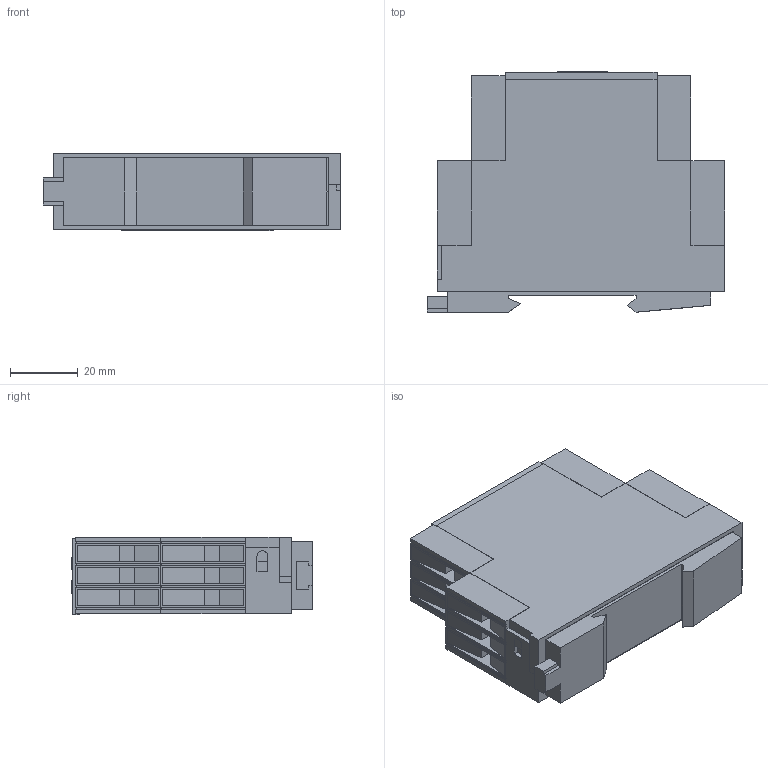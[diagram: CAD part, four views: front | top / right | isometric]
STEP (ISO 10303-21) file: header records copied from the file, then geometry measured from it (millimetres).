
FILE_DESCRIPTION (( 'STEP AP203' ), '1' );
FILE_NAME ('KR_GY200_3.STEP', '2017-02-13T16:47:06', ( '' ), ( '' ), 'SwSTEP 2.0', 'SolidWorks 2013', '' );
FILE_SCHEMA (( 'CONFIG_CONTROL_DESIGN' ));
Length unit declared in the file: millimetre
Products named in the file (7): Nap_gy_1; viko; Krab_1; zaklad_22_5; Svorka_3; KR_GY200_3; klip_din
Assembly tree (10 placements, depth 3):
  KR_GY200_3
    zaklad_22_5
      Krab_1  x2
      viko
      klip_din
    Nap_gy_1
    Svorka_3  x4
Bounding box: 87.8 x 70.9 x 22.89 mm (x, y, z)
Volume: 42533.9 mm3; surface area: 39354.9 mm2
Topology: 18 solids, 18 shells, 728 faces, 1980 edges, 1320 vertices
Faces by surface type: plane 641, bspline 57, cylinder 30
Entity records: 15103 total; most frequent: CARTESIAN_POINT 5933, ORIENTED_EDGE 1848, DIRECTION 1458, EDGE_CURVE 924, LINE 768, VECTOR 768, VERTEX_POINT 616, EDGE_LOOP 368
